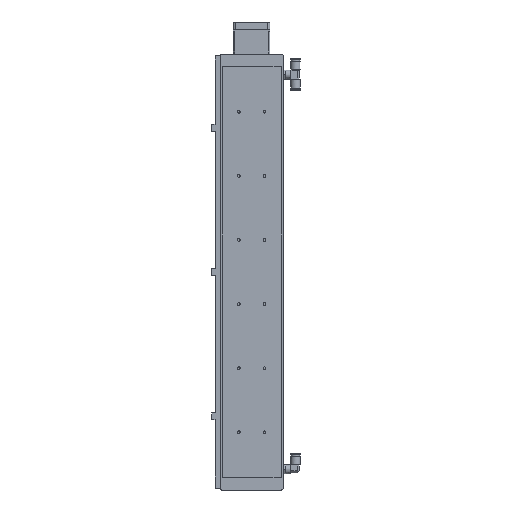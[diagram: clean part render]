
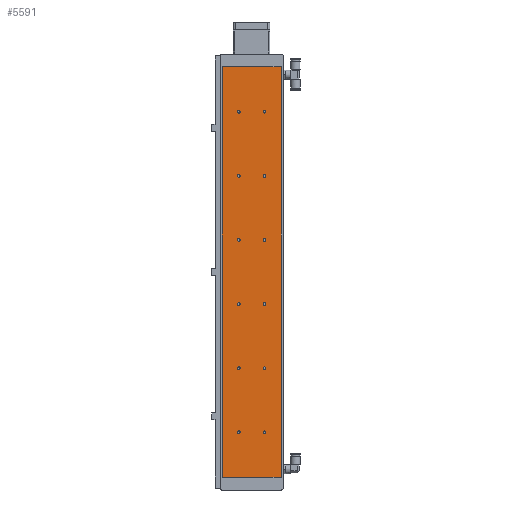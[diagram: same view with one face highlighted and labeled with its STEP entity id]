
A CAD part, front view. The second image highlights one B-rep face of the part: STEP entity #5591.
In plain terms, the highlighted planar face has unit normal (0, -1, 0).
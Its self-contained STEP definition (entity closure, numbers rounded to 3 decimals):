
#4419=CARTESIAN_POINT('',(22.067,0.0,90.));
#4420=VERTEX_POINT('',#4419);
#4421=CARTESIAN_POINT('',(20.,0.0,90.));
#4422=DIRECTION('',(0.0,1.0,0.0));
#4423=DIRECTION('',(1.0,0.0,0.0));
#4424=AXIS2_PLACEMENT_3D('',#4421,#4422,#4423);
#4425=CIRCLE('',#4424,2.067);
#4426=EDGE_CURVE('',#4420,#4420,#4425,.T.);
#4477=CARTESIAN_POINT('',(-17.933,0.0,90.));
#4478=VERTEX_POINT('',#4477);
#4479=CARTESIAN_POINT('',(-20.,0.0,90.));
#4480=DIRECTION('',(0.0,1.0,0.0));
#4481=DIRECTION('',(1.0,0.0,0.0));
#4482=AXIS2_PLACEMENT_3D('',#4479,#4480,#4481);
#4483=CIRCLE('',#4482,2.067);
#4484=EDGE_CURVE('',#4478,#4478,#4483,.T.);
#4535=CARTESIAN_POINT('',(22.067,0.0,590.0));
#4536=VERTEX_POINT('',#4535);
#4537=CARTESIAN_POINT('',(20.,0.0,590.0));
#4538=DIRECTION('',(0.0,1.0,0.0));
#4539=DIRECTION('',(1.0,0.0,0.0));
#4540=AXIS2_PLACEMENT_3D('',#4537,#4538,#4539);
#4541=CIRCLE('',#4540,2.067);
#4542=EDGE_CURVE('',#4536,#4536,#4541,.T.);
#4593=CARTESIAN_POINT('',(-17.933,0.0,590.0));
#4594=VERTEX_POINT('',#4593);
#4595=CARTESIAN_POINT('',(-20.,0.0,590.0));
#4596=DIRECTION('',(0.0,1.0,0.0));
#4597=DIRECTION('',(1.0,0.0,0.0));
#4598=AXIS2_PLACEMENT_3D('',#4595,#4596,#4597);
#4599=CIRCLE('',#4598,2.067);
#4600=EDGE_CURVE('',#4594,#4594,#4599,.T.);
#4651=CARTESIAN_POINT('',(-17.933,0.0,190.0));
#4652=VERTEX_POINT('',#4651);
#4653=CARTESIAN_POINT('',(-20.,0.0,190.0));
#4654=DIRECTION('',(0.0,1.0,0.0));
#4655=DIRECTION('',(1.0,0.0,0.0));
#4656=AXIS2_PLACEMENT_3D('',#4653,#4654,#4655);
#4657=CIRCLE('',#4656,2.067);
#4658=EDGE_CURVE('',#4652,#4652,#4657,.T.);
#4709=CARTESIAN_POINT('',(22.067,0.0,190.0));
#4710=VERTEX_POINT('',#4709);
#4711=CARTESIAN_POINT('',(20.,0.0,190.0));
#4712=DIRECTION('',(0.0,1.0,0.0));
#4713=DIRECTION('',(1.0,0.0,0.0));
#4714=AXIS2_PLACEMENT_3D('',#4711,#4712,#4713);
#4715=CIRCLE('',#4714,2.067);
#4716=EDGE_CURVE('',#4710,#4710,#4715,.T.);
#4767=CARTESIAN_POINT('',(-17.933,0.0,490.0));
#4768=VERTEX_POINT('',#4767);
#4769=CARTESIAN_POINT('',(-20.,0.0,490.0));
#4770=DIRECTION('',(0.0,1.0,0.0));
#4771=DIRECTION('',(1.0,0.0,0.0));
#4772=AXIS2_PLACEMENT_3D('',#4769,#4770,#4771);
#4773=CIRCLE('',#4772,2.067);
#4774=EDGE_CURVE('',#4768,#4768,#4773,.T.);
#4825=CARTESIAN_POINT('',(22.067,0.0,490.0));
#4826=VERTEX_POINT('',#4825);
#4827=CARTESIAN_POINT('',(20.,0.0,490.0));
#4828=DIRECTION('',(0.0,1.0,0.0));
#4829=DIRECTION('',(1.0,0.0,0.0));
#4830=AXIS2_PLACEMENT_3D('',#4827,#4828,#4829);
#4831=CIRCLE('',#4830,2.067);
#4832=EDGE_CURVE('',#4826,#4826,#4831,.T.);
#4883=CARTESIAN_POINT('',(-17.933,0.0,390.0));
#4884=VERTEX_POINT('',#4883);
#4885=CARTESIAN_POINT('',(-20.,0.0,390.0));
#4886=DIRECTION('',(0.0,1.0,0.0));
#4887=DIRECTION('',(1.0,0.0,0.0));
#4888=AXIS2_PLACEMENT_3D('',#4885,#4886,#4887);
#4889=CIRCLE('',#4888,2.067);
#4890=EDGE_CURVE('',#4884,#4884,#4889,.T.);
#4941=CARTESIAN_POINT('',(-17.933,0.0,290.0));
#4942=VERTEX_POINT('',#4941);
#4943=CARTESIAN_POINT('',(-20.,0.0,290.0));
#4944=DIRECTION('',(0.0,1.0,0.0));
#4945=DIRECTION('',(1.0,0.0,0.0));
#4946=AXIS2_PLACEMENT_3D('',#4943,#4944,#4945);
#4947=CIRCLE('',#4946,2.067);
#4948=EDGE_CURVE('',#4942,#4942,#4947,.T.);
#4999=CARTESIAN_POINT('',(22.067,0.0,290.0));
#5000=VERTEX_POINT('',#4999);
#5001=CARTESIAN_POINT('',(20.,0.0,290.0));
#5002=DIRECTION('',(0.0,1.0,0.0));
#5003=DIRECTION('',(1.0,0.0,0.0));
#5004=AXIS2_PLACEMENT_3D('',#5001,#5002,#5003);
#5005=CIRCLE('',#5004,2.067);
#5006=EDGE_CURVE('',#5000,#5000,#5005,.T.);
#5057=CARTESIAN_POINT('',(22.067,0.0,390.0));
#5058=VERTEX_POINT('',#5057);
#5059=CARTESIAN_POINT('',(20.,0.0,390.0));
#5060=DIRECTION('',(0.0,1.0,0.0));
#5061=DIRECTION('',(1.0,0.0,0.0));
#5062=AXIS2_PLACEMENT_3D('',#5059,#5060,#5061);
#5063=CIRCLE('',#5062,2.067);
#5064=EDGE_CURVE('',#5058,#5058,#5063,.T.);
#5466=CARTESIAN_POINT('',(46.,0.0,20.));
#5467=VERTEX_POINT('',#5466);
#5474=CARTESIAN_POINT('',(-46.,0.0,20.));
#5475=VERTEX_POINT('',#5474);
#5476=CARTESIAN_POINT('',(-46.,0.0,20.));
#5477=DIRECTION('',(1.0,0.0,0.0));
#5478=VECTOR('',#5477,92.);
#5479=LINE('',#5476,#5478);
#5480=EDGE_CURVE('',#5475,#5467,#5479,.T.);
#5497=CARTESIAN_POINT('',(-46.,0.0,660.0));
#5498=VERTEX_POINT('',#5497);
#5505=CARTESIAN_POINT('',(46.,0.0,660.0));
#5506=VERTEX_POINT('',#5505);
#5507=CARTESIAN_POINT('',(46.,0.0,660.0));
#5508=DIRECTION('',(-1.0,0.0,0.0));
#5509=VECTOR('',#5508,92.);
#5510=LINE('',#5507,#5509);
#5511=EDGE_CURVE('',#5506,#5498,#5510,.T.);
#5528=CARTESIAN_POINT('',(-46.,0.0,20.));
#5529=DIRECTION('',(0.0,0.0,1.0));
#5530=VECTOR('',#5529,640.0);
#5531=LINE('',#5528,#5530);
#5532=EDGE_CURVE('',#5475,#5498,#5531,.T.);
#5539=CARTESIAN_POINT('',(46.,0.0,0.0));
#5540=DIRECTION('',(0.0,-1.0,0.0));
#5541=DIRECTION('',(0.0,0.0,-1.0));
#5542=AXIS2_PLACEMENT_3D('',#5539,#5540,#5541);
#5543=PLANE('',#5542);
#5544=ORIENTED_EDGE('',*,*,#5480,.T.);
#5545=CARTESIAN_POINT('',(46.,0.0,20.));
#5546=DIRECTION('',(0.0,0.0,1.0));
#5547=VECTOR('',#5546,640.0);
#5548=LINE('',#5545,#5547);
#5549=EDGE_CURVE('',#5467,#5506,#5548,.T.);
#5550=ORIENTED_EDGE('',*,*,#5549,.T.);
#5551=ORIENTED_EDGE('',*,*,#5511,.T.);
#5552=ORIENTED_EDGE('',*,*,#5532,.F.);
#5553=EDGE_LOOP('',(#5544,#5550,#5551,#5552));
#5554=FACE_OUTER_BOUND('',#5553,.T.);
#5555=ORIENTED_EDGE('',*,*,#4426,.T.);
#5556=EDGE_LOOP('',(#5555));
#5557=FACE_BOUND('',#5556,.T.);
#5558=ORIENTED_EDGE('',*,*,#4484,.T.);
#5559=EDGE_LOOP('',(#5558));
#5560=FACE_BOUND('',#5559,.T.);
#5561=ORIENTED_EDGE('',*,*,#4542,.T.);
#5562=EDGE_LOOP('',(#5561));
#5563=FACE_BOUND('',#5562,.T.);
#5564=ORIENTED_EDGE('',*,*,#4600,.T.);
#5565=EDGE_LOOP('',(#5564));
#5566=FACE_BOUND('',#5565,.T.);
#5567=ORIENTED_EDGE('',*,*,#4658,.T.);
#5568=EDGE_LOOP('',(#5567));
#5569=FACE_BOUND('',#5568,.T.);
#5570=ORIENTED_EDGE('',*,*,#4716,.T.);
#5571=EDGE_LOOP('',(#5570));
#5572=FACE_BOUND('',#5571,.T.);
#5573=ORIENTED_EDGE('',*,*,#4774,.T.);
#5574=EDGE_LOOP('',(#5573));
#5575=FACE_BOUND('',#5574,.T.);
#5576=ORIENTED_EDGE('',*,*,#4832,.T.);
#5577=EDGE_LOOP('',(#5576));
#5578=FACE_BOUND('',#5577,.T.);
#5579=ORIENTED_EDGE('',*,*,#4890,.T.);
#5580=EDGE_LOOP('',(#5579));
#5581=FACE_BOUND('',#5580,.T.);
#5582=ORIENTED_EDGE('',*,*,#4948,.T.);
#5583=EDGE_LOOP('',(#5582));
#5584=FACE_BOUND('',#5583,.T.);
#5585=ORIENTED_EDGE('',*,*,#5006,.T.);
#5586=EDGE_LOOP('',(#5585));
#5587=FACE_BOUND('',#5586,.T.);
#5588=ORIENTED_EDGE('',*,*,#5064,.T.);
#5589=EDGE_LOOP('',(#5588));
#5590=FACE_BOUND('',#5589,.T.);
#5591=ADVANCED_FACE('',(#5554,#5557,#5560,#5563,#5566,#5569,#5572,#5575,#5578,#5581,#5584,#5587,#5590),#5543,.T.);
